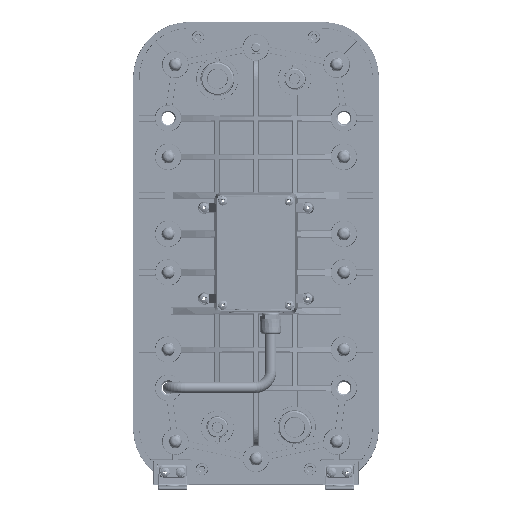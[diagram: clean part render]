
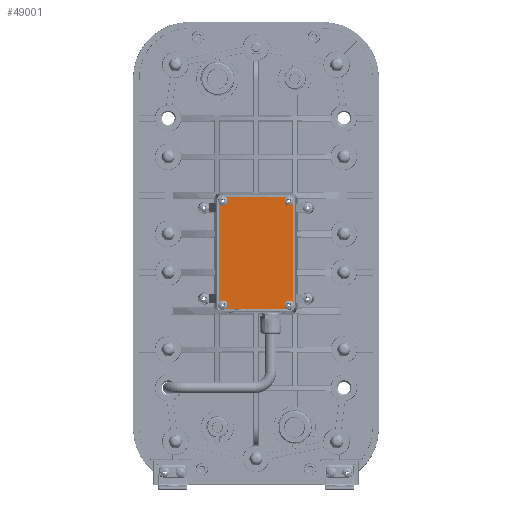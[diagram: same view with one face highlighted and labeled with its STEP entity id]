
A CAD part, top view. The second image highlights one B-rep face of the part: STEP entity #49001.
In plain terms, the highlighted planar face has unit normal (0, 0, 1).
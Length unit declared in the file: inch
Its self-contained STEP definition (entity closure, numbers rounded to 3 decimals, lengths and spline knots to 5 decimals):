
#3548 = CARTESIAN_POINT ( 'NONE',  ( 1.88994, -2.705, 3.657 ) ) ;
#3748 = AXIS2_PLACEMENT_3D ( 'NONE', #3921, #3919, #3896 ) ;
#3767 = DIRECTION ( 'NONE',  ( 0., 1., 0. ) ) ;
#3769 = VECTOR ( 'NONE', #3767, 39.37008 ) ;
#3770 = CARTESIAN_POINT ( 'NONE',  ( 1.88994, -2.865, 3.657 ) ) ;
#3772 = LINE ( 'NONE', #3770, #3769 ) ;
#3896 = DIRECTION ( 'NONE',  ( -1., 0., 0. ) ) ;
#3911 = CIRCLE ( 'NONE', #3748, 0.16 ) ;
#3919 = DIRECTION ( 'NONE',  ( 0., 0., 1. ) ) ;
#3921 = CARTESIAN_POINT ( 'NONE',  ( 1.72994, -2.705, 3.657 ) ) ;
#4365 = CARTESIAN_POINT ( 'NONE',  ( -1.82106, -2.656, 3.657 ) ) ;
#4374 = FACE_BOUND ( 'NONE', #49330, .T. ) ;
#4456 = DIRECTION ( 'NONE',  ( -1., 0., 0. ) ) ;
#4459 = DIRECTION ( 'NONE',  ( 0., 0., -1. ) ) ;
#4462 = CARTESIAN_POINT ( 'NONE',  ( -1.89006, -2.865, 3.657 ) ) ;
#4526 = CARTESIAN_POINT ( 'NONE',  ( -1.89006, 2.865, 3.657 ) ) ;
#4528 = LINE ( 'NONE', #4526, #4688 ) ;
#4606 = DIRECTION ( 'NONE',  ( -1., 0., 0. ) ) ;
#4608 = DIRECTION ( 'NONE',  ( 0., 0., 1. ) ) ;
#4611 = CARTESIAN_POINT ( 'NONE',  ( -1.68806, -2.656, 3.657 ) ) ;
#4613 = AXIS2_PLACEMENT_3D ( 'NONE', #4611, #4608, #4606 ) ;
#4616 = FACE_BOUND ( 'NONE', #48993, .T. ) ;
#4618 = AXIS2_PLACEMENT_3D ( 'NONE', #4462, #4459, #4456 ) ;
#4621 = FACE_BOUND ( 'NONE', #46545, .T. ) ;
#4634 = FACE_BOUND ( 'NONE', #49007, .T. ) ;
#4637 = FACE_OUTER_BOUND ( 'NONE', #49325, .T. ) ;
#4639 = CIRCLE ( 'NONE', #4613, 0.133 ) ;
#4664 = CARTESIAN_POINT ( 'NONE',  ( -1.55506, -2.656, 3.657 ) ) ;
#4677 = PLANE ( 'NONE',  #4618 ) ;
#4687 = DIRECTION ( 'NONE',  ( -1., 0., 0. ) ) ;
#4688 = VECTOR ( 'NONE', #4687, 39.37008 ) ;
#4771 = AXIS2_PLACEMENT_3D ( 'NONE', #5062, #5060, #5059 ) ;
#4773 = CIRCLE ( 'NONE', #4771, 0.133 ) ;
#4774 = CARTESIAN_POINT ( 'NONE',  ( 1.55494, 2.656, 3.657 ) ) ;
#4786 = CARTESIAN_POINT ( 'NONE',  ( -1.82106, 2.656, 3.657 ) ) ;
#4847 = CARTESIAN_POINT ( 'NONE',  ( -1.73006, -2.705, 3.657 ) ) ;
#4851 = DIRECTION ( 'NONE',  ( 0., -1., 0. ) ) ;
#4852 = VECTOR ( 'NONE', #4851, 39.37008 ) ;
#4854 = CARTESIAN_POINT ( 'NONE',  ( -1.89006, -2.865, 3.657 ) ) ;
#4856 = LINE ( 'NONE', #4854, #4852 ) ;
#4862 = CIRCLE ( 'NONE', #4872, 0.16 ) ;
#4872 = AXIS2_PLACEMENT_3D ( 'NONE', #4847, #4989, #4988 ) ;
#4988 = DIRECTION ( 'NONE',  ( -1., 0., 0. ) ) ;
#4989 = DIRECTION ( 'NONE',  ( 0., 0., 1. ) ) ;
#5048 = CARTESIAN_POINT ( 'NONE',  ( -1.55506, 2.656, 3.657 ) ) ;
#5059 = DIRECTION ( 'NONE',  ( -1., 0., 0. ) ) ;
#5060 = DIRECTION ( 'NONE',  ( 0., 0., -1. ) ) ;
#5062 = CARTESIAN_POINT ( 'NONE',  ( -1.68806, 2.656, 3.657 ) ) ;
#5368 = CARTESIAN_POINT ( 'NONE',  ( -1.89006, -2.705, 3.657 ) ) ;
#5415 = DIRECTION ( 'NONE',  ( 1., 0., 0. ) ) ;
#5416 = VECTOR ( 'NONE', #5415, 39.37008 ) ;
#5417 = CARTESIAN_POINT ( 'NONE',  ( -1.89006, -2.865, 3.657 ) ) ;
#5420 = LINE ( 'NONE', #5417, #5416 ) ;
#5560 = CARTESIAN_POINT ( 'NONE',  ( 1.88994, 2.705, 3.657 ) ) ;
#5584 = CARTESIAN_POINT ( 'NONE',  ( 1.72994, -2.865, 3.657 ) ) ;
#5596 = CARTESIAN_POINT ( 'NONE',  ( -1.73006, -2.865, 3.657 ) ) ;
#5773 = DIRECTION ( 'NONE',  ( 1., 0., 0. ) ) ;
#5774 = DIRECTION ( 'NONE',  ( 0., 0., 1. ) ) ;
#5775 = CARTESIAN_POINT ( 'NONE',  ( 1.68794, 2.656, 3.657 ) ) ;
#5776 = AXIS2_PLACEMENT_3D ( 'NONE', #5775, #5774, #5773 ) ;
#5790 = CIRCLE ( 'NONE', #5776, 0.133 ) ;
#5865 = CARTESIAN_POINT ( 'NONE',  ( 1.82094, 2.656, 3.657 ) ) ;
#5938 = DIRECTION ( 'NONE',  ( -1., 0., 0. ) ) ;
#5939 = DIRECTION ( 'NONE',  ( 0., 0., 1. ) ) ;
#5944 = AXIS2_PLACEMENT_3D ( 'NONE', #5945, #5939, #5938 ) ;
#5945 = CARTESIAN_POINT ( 'NONE',  ( 1.72994, 2.705, 3.657 ) ) ;
#6012 = DIRECTION ( 'NONE',  ( -1., 0., 0. ) ) ;
#6013 = DIRECTION ( 'NONE',  ( 0., 0., -1. ) ) ;
#6014 = CARTESIAN_POINT ( 'NONE',  ( -1.68806, 2.656, 3.657 ) ) ;
#6015 = AXIS2_PLACEMENT_3D ( 'NONE', #6014, #6013, #6012 ) ;
#6024 = DIRECTION ( 'NONE',  ( 1., 0., 0. ) ) ;
#6025 = DIRECTION ( 'NONE',  ( 0., 0., 1. ) ) ;
#6026 = CARTESIAN_POINT ( 'NONE',  ( 1.68794, 2.656, 3.657 ) ) ;
#6027 = AXIS2_PLACEMENT_3D ( 'NONE', #6026, #6025, #6024 ) ;
#6043 = CIRCLE ( 'NONE', #6015, 0.133 ) ;
#6093 = CIRCLE ( 'NONE', #5944, 0.16 ) ;
#6098 = CIRCLE ( 'NONE', #6027, 0.133 ) ;
#6188 = DIRECTION ( 'NONE',  ( -1., 0., 0. ) ) ;
#6190 = DIRECTION ( 'NONE',  ( 0., 0., 1. ) ) ;
#6191 = AXIS2_PLACEMENT_3D ( 'NONE', #6215, #6190, #6188 ) ;
#6215 = CARTESIAN_POINT ( 'NONE',  ( -1.73006, 2.705, 3.657 ) ) ;
#6221 = CARTESIAN_POINT ( 'NONE',  ( -1.73006, 2.865, 3.657 ) ) ;
#6227 = CARTESIAN_POINT ( 'NONE',  ( -1.89006, 2.705, 3.657 ) ) ;
#6229 = DIRECTION ( 'NONE',  ( 1., 0., 0. ) ) ;
#6230 = DIRECTION ( 'NONE',  ( 0., 0., -1. ) ) ;
#6241 = AXIS2_PLACEMENT_3D ( 'NONE', #6245, #6230, #6229 ) ;
#6245 = CARTESIAN_POINT ( 'NONE',  ( 1.68794, -2.656, 3.657 ) ) ;
#6250 = CIRCLE ( 'NONE', #6241, 0.133 ) ;
#6251 = DIRECTION ( 'NONE',  ( 1., 0., 0. ) ) ;
#6252 = DIRECTION ( 'NONE',  ( 0., 0., -1. ) ) ;
#6253 = CARTESIAN_POINT ( 'NONE',  ( 1.68794, -2.656, 3.657 ) ) ;
#6254 = AXIS2_PLACEMENT_3D ( 'NONE', #6253, #6252, #6251 ) ;
#6257 = DIRECTION ( 'NONE',  ( -1., 0., 0. ) ) ;
#6258 = DIRECTION ( 'NONE',  ( 0., 0., 1. ) ) ;
#6260 = CARTESIAN_POINT ( 'NONE',  ( -1.68806, -2.656, 3.657 ) ) ;
#6261 = AXIS2_PLACEMENT_3D ( 'NONE', #6260, #6258, #6257 ) ;
#6266 = CIRCLE ( 'NONE', #6254, 0.133 ) ;
#6267 = CIRCLE ( 'NONE', #6261, 0.133 ) ;
#6304 = CARTESIAN_POINT ( 'NONE',  ( 1.72994, 2.865, 3.657 ) ) ;
#6363 = CARTESIAN_POINT ( 'NONE',  ( 1.55494, -2.656, 3.657 ) ) ;
#6366 = CARTESIAN_POINT ( 'NONE',  ( 1.82094, -2.656, 3.657 ) ) ;
#6407 = CIRCLE ( 'NONE', #6191, 0.16 ) ;
#46545 = EDGE_LOOP ( 'NONE', ( #49467, #49356 ) ) ;
#48240 = EDGE_CURVE ( 'NONE', #48242, #49181, #3772, .T. ) ;
#48242 = VERTEX_POINT ( 'NONE', #3548 ) ;
#48251 = EDGE_CURVE ( 'NONE', #49182, #48242, #3911, .T. ) ;
#48973 = ORIENTED_EDGE ( 'NONE', *, *, #48997, .F. ) ;
#48979 = EDGE_CURVE ( 'NONE', #49515, #49501, #4528, .T. ) ;
#48990 = VERTEX_POINT ( 'NONE', #4664 ) ;
#48993 = EDGE_LOOP ( 'NONE', ( #49455, #49458 ) ) ;
#48997 = EDGE_CURVE ( 'NONE', #49018, #48990, #4639, .T. ) ;
#49001 = ADVANCED_FACE ( 'NONE', ( #4634, #4616, #4621, #4637, #4374 ), #4677, .F. ) ;
#49007 = EDGE_LOOP ( 'NONE', ( #48973, #49447 ) ) ;
#49018 = VERTEX_POINT ( 'NONE', #4365 ) ;
#49044 = EDGE_CURVE ( 'NONE', #49478, #49205, #4856, .T. ) ;
#49053 = EDGE_CURVE ( 'NONE', #49205, #49230, #4862, .T. ) ;
#49115 = ORIENTED_EDGE ( 'NONE', *, *, #48240, .T. ) ;
#49124 = ORIENTED_EDGE ( 'NONE', *, *, #49341, .T. ) ;
#49130 = VERTEX_POINT ( 'NONE', #4786 ) ;
#49132 = ORIENTED_EDGE ( 'NONE', *, *, #49135, .T. ) ;
#49135 = EDGE_CURVE ( 'NONE', #49148, #49130, #4773, .T. ) ;
#49148 = VERTEX_POINT ( 'NONE', #5048 ) ;
#49152 = VERTEX_POINT ( 'NONE', #4774 ) ;
#49181 = VERTEX_POINT ( 'NONE', #5560 ) ;
#49182 = VERTEX_POINT ( 'NONE', #5584 ) ;
#49205 = VERTEX_POINT ( 'NONE', #5368 ) ;
#49220 = EDGE_CURVE ( 'NONE', #49230, #49182, #5420, .T. ) ;
#49230 = VERTEX_POINT ( 'NONE', #5596 ) ;
#49325 = EDGE_LOOP ( 'NONE', ( #49335, #49360, #49331, #49358, #49342, #49336, #49115, #49340 ) ) ;
#49327 = EDGE_CURVE ( 'NONE', #49152, #49385, #6098, .T. ) ;
#49330 = EDGE_LOOP ( 'NONE', ( #49124, #49132 ) ) ;
#49331 = ORIENTED_EDGE ( 'NONE', *, *, #49044, .T. ) ;
#49335 = ORIENTED_EDGE ( 'NONE', *, *, #48979, .T. ) ;
#49336 = ORIENTED_EDGE ( 'NONE', *, *, #48251, .T. ) ;
#49340 = ORIENTED_EDGE ( 'NONE', *, *, #49353, .T. ) ;
#49341 = EDGE_CURVE ( 'NONE', #49130, #49148, #6043, .T. ) ;
#49342 = ORIENTED_EDGE ( 'NONE', *, *, #49220, .T. ) ;
#49353 = EDGE_CURVE ( 'NONE', #49181, #49515, #6093, .T. ) ;
#49356 = ORIENTED_EDGE ( 'NONE', *, *, #49327, .F. ) ;
#49358 = ORIENTED_EDGE ( 'NONE', *, *, #49053, .T. ) ;
#49360 = ORIENTED_EDGE ( 'NONE', *, *, #49504, .T. ) ;
#49383 = EDGE_CURVE ( 'NONE', #49385, #49152, #5790, .T. ) ;
#49385 = VERTEX_POINT ( 'NONE', #5865 ) ;
#49447 = ORIENTED_EDGE ( 'NONE', *, *, #49448, .F. ) ;
#49448 = EDGE_CURVE ( 'NONE', #48990, #49018, #6267, .T. ) ;
#49449 = EDGE_CURVE ( 'NONE', #49456, #49452, #6266, .T. ) ;
#49452 = VERTEX_POINT ( 'NONE', #6363 ) ;
#49455 = ORIENTED_EDGE ( 'NONE', *, *, #49449, .T. ) ;
#49456 = VERTEX_POINT ( 'NONE', #6366 ) ;
#49458 = ORIENTED_EDGE ( 'NONE', *, *, #49462, .T. ) ;
#49462 = EDGE_CURVE ( 'NONE', #49452, #49456, #6250, .T. ) ;
#49467 = ORIENTED_EDGE ( 'NONE', *, *, #49383, .F. ) ;
#49478 = VERTEX_POINT ( 'NONE', #6227 ) ;
#49501 = VERTEX_POINT ( 'NONE', #6221 ) ;
#49504 = EDGE_CURVE ( 'NONE', #49501, #49478, #6407, .T. ) ;
#49515 = VERTEX_POINT ( 'NONE', #6304 ) ;
